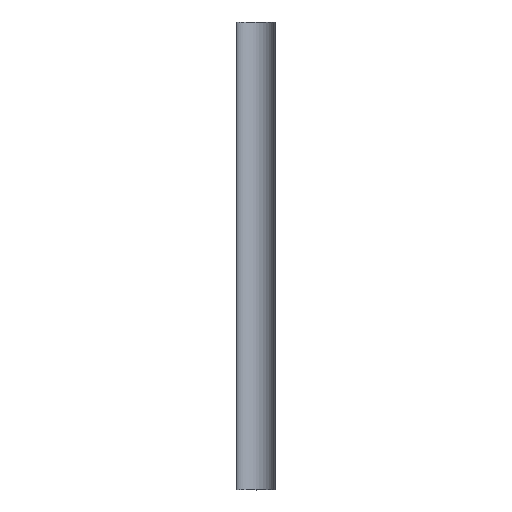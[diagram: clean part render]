
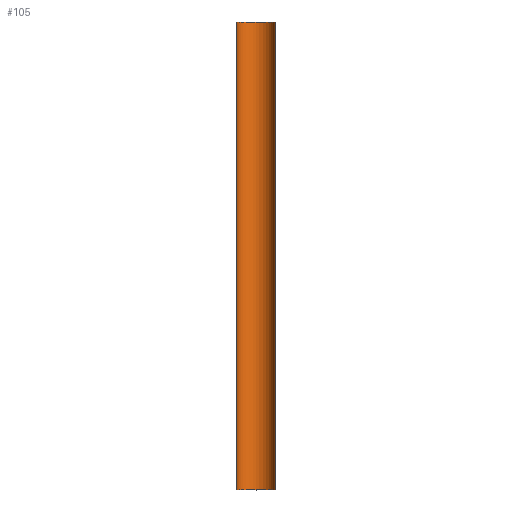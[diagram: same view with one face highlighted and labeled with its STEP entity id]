
A CAD part, top view. The second image highlights one B-rep face of the part: STEP entity #105.
In plain terms, the highlighted cylindrical face has radius 125 mm (diameter 250 mm), a partial arc.
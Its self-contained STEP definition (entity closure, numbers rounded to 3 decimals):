
#13=CYLINDRICAL_SURFACE($,#117,125.);
#18=FACE_OUTER_BOUND($,#24,.T.);
#24=EDGE_LOOP($,(#82,#83,#84,#85));
#26=CIRCLE($,#111,125.);
#29=CIRCLE($,#118,125.);
#34=LINE($,#165,#42);
#37=LINE($,#173,#45);
#42=VECTOR($,#134,3000.);
#45=VECTOR($,#143,3000.);
#46=VERTEX_POINT($,#152);
#48=VERTEX_POINT($,#155);
#50=VERTEX_POINT($,#161);
#53=VERTEX_POINT($,#171);
#55=EDGE_CURVE($,#48,#46,#26,.T.);
#60=EDGE_CURVE($,#50,#48,#34,.T.);
#64=EDGE_CURVE($,#46,#53,#37,.T.);
#65=EDGE_CURVE($,#53,#50,#29,.T.);
#82=ORIENTED_EDGE($,*,*,#65,.T.);
#83=ORIENTED_EDGE($,*,*,#60,.T.);
#84=ORIENTED_EDGE($,*,*,#55,.T.);
#85=ORIENTED_EDGE($,*,*,#64,.T.);
#105=ADVANCED_FACE($,(#18),#13,.F.);
#111=AXIS2_PLACEMENT_3D($,#156,#125,#126);
#117=AXIS2_PLACEMENT_3D($,#174,#144,#145);
#118=AXIS2_PLACEMENT_3D($,#175,#146,#147);
#125=DIRECTION('center_axis',(0.,-1.,0.));
#126=DIRECTION('ref_axis',(-1.,0.,0.));
#134=DIRECTION($,(0.,-1.,0.));
#143=DIRECTION($,(0.,1.,0.));
#144=DIRECTION('center_axis',(0.,1.,0.));
#145=DIRECTION('ref_axis',(-1.,0.,0.));
#146=DIRECTION('center_axis',(0.,1.,0.));
#147=DIRECTION('ref_axis',(-1.,0.,0.));
#152=CARTESIAN_POINT('',(125.,-1500.,0.));
#155=CARTESIAN_POINT('',(-125.,-1500.,0.));
#156=CARTESIAN_POINT('Origin',(0.,-1500.,0.));
#161=CARTESIAN_POINT('',(-125.,1500.,0.));
#165=CARTESIAN_POINT($,(-125.,0.,0.));
#171=CARTESIAN_POINT('',(125.,1500.,0.));
#173=CARTESIAN_POINT($,(125.,0.,0.));
#174=CARTESIAN_POINT('Origin',(0.,0.,0.));
#175=CARTESIAN_POINT('Origin',(0.,1500.,0.));
